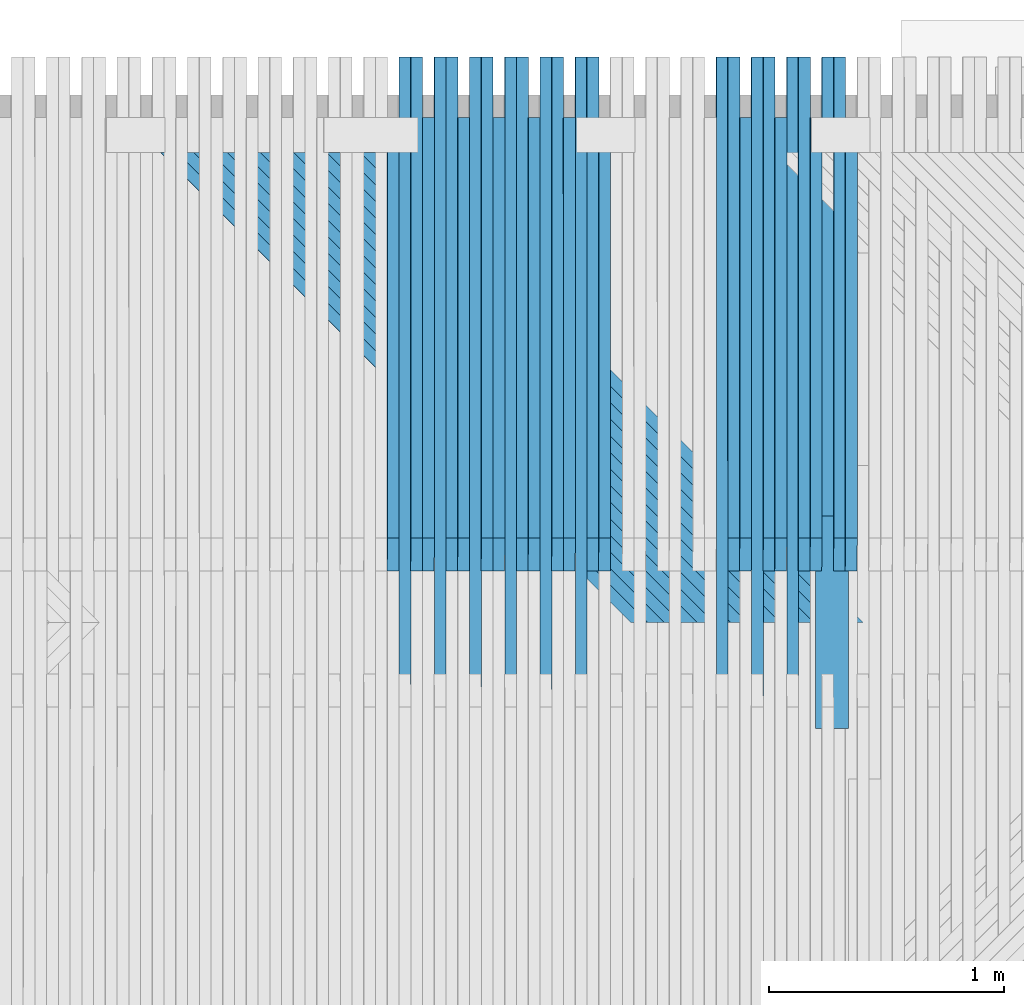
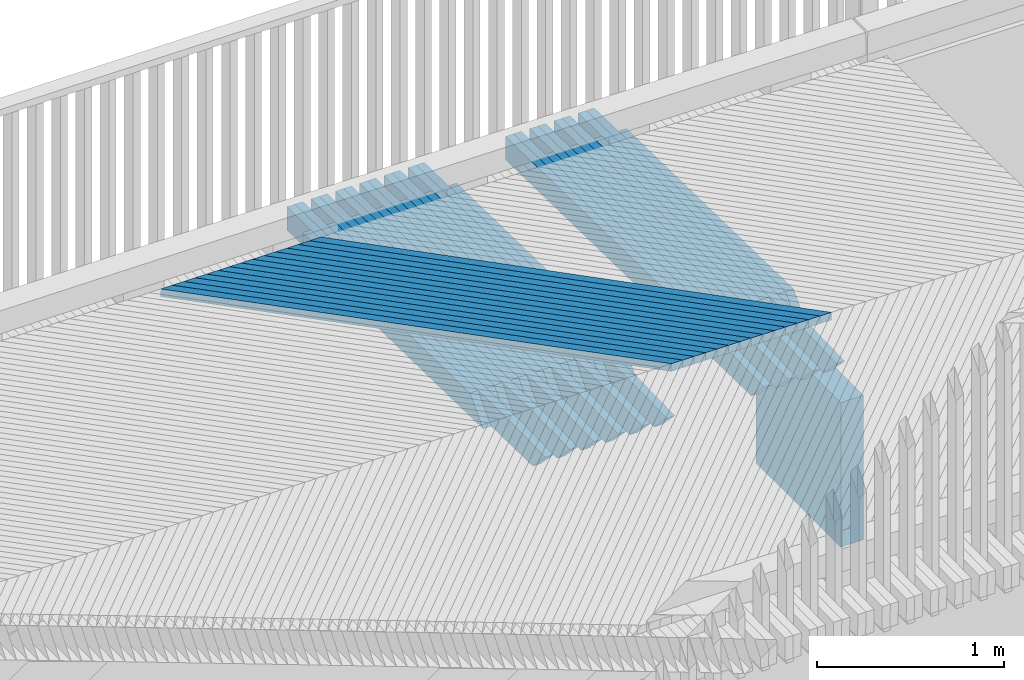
# One storey, part 40 of 47: 46 beams.
"""IFC2X3 building model written with IfcOpenShell, lengths in millimetres."""

from ifc_helpers import new_model, si_unit, frame, origin_with_axes, place, context, subcontext, project, spatial, faceted_brep, material, type_object, element, save


model = new_model("IFC2X3")

# Units and contexts
model_context = context("Model", 3, precision=1e-05, world=origin_with_axes())
body_context = subcontext(model_context, "Body", "Model", "MODEL_VIEW")
ifc_project = project(units=[si_unit("LENGTHUNIT", "METRE", prefix="MILLI"), si_unit("AREAUNIT", "SQUARE_METRE"), si_unit("VOLUMEUNIT", "CUBIC_METRE"), si_unit("MASSUNIT", "GRAM", prefix="KILO"), si_unit("TIMEUNIT", "SECOND"), si_unit("PLANEANGLEUNIT", "RADIAN"), si_unit("SOLIDANGLEUNIT", "STERADIAN"), si_unit("THERMODYNAMICTEMPERATUREUNIT", "DEGREE_CELSIUS"), si_unit("LUMINOUSINTENSITYUNIT", "LUMEN")], contexts=[model_context])

# Site, building, storey
site_placement = place(None, origin_with_axes())
site = spatial("IfcSite", under=ifc_project, at=site_placement, Name="Undefined", CompositionType="ELEMENT")
building_placement = place(site_placement, origin_with_axes())
building = spatial("IfcBuilding", under=site, at=building_placement, Name="Undefined", CompositionType="ELEMENT")
storey_placement = place(building_placement, origin_with_axes())
storey = spatial("IfcBuildingStorey", under=building, at=storey_placement, Name="Undefined", CompositionType="ELEMENT", Elevation=0.0)

# Beams
ifc_material = material(Name="TIMBER/Timber_Undefined")
beam_type_1 = type_object("IfcBeamType", Name="150*50", PredefinedType="NOTDEFINED")
beam_1_placement = place(storey_placement, frame((15051.016947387, 64513.4953923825, 3051.85105374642), z_axis=(0.011713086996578, 0.0199960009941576, 0.999731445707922), x_axis=(0.000234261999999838, -0.999800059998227, 0.0199946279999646)))
element("IfcBeam", 1, at=beam_1_placement, inside=storey, type_object=beam_type_1, material=ifc_material, Name="BEAM", ObjectType="150*50", context=body_context, shape_type="Brep", body=[
    faceted_brep([(6.18456397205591e-09, -24.9999999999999, -75.0000000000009), (-6.1918399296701e-09, -24.9999999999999, 74.9999999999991), (-6.19911588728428e-09, 25.0, 75.0), (6.18456397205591e-09, 24.9999999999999, -75.0), (1789.96936586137, 25.0, 75.0000000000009), (1928.42646506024, 25.0, -75.0), (1928.4264649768, -24.9999999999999, -75.0), (1789.96936577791, -24.9999999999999, 75.0)], [[[0, 1, 2, 3]], [[3, 2, 4, 5]], [[0, 3, 5, 6]], [[1, 0, 6, 7]], [[2, 1, 7, 4]], [[7, 6, 5, 4]]]),
])
beam_2_placement = place(storey_placement, frame((15001.0553787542, 64771.4438078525, 3047.27491822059), z_axis=(0.0116307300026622, 0.0199960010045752, 0.99973240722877), x_axis=(0.0002326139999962, -0.999800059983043, 0.019994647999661)))
element("IfcBeam", 2, at=beam_2_placement, inside=storey, type_object=beam_type_1, material=ifc_material, Name="BEAM", ObjectType="150*50", context=body_context, shape_type="Brep", body=[
    faceted_brep([(6.18456397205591e-09, -24.9999999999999, -75.0000000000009), (-6.1918399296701e-09, -24.9999999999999, 74.9999999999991), (-6.19911588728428e-09, 25.0, 75.0), (6.18456397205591e-09, 24.9999999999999, -75.0), (2047.96935975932, 25.0, 75.0), (2186.42645864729, 25.0, -75.0), (2186.42645915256, -25.0000000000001, -75.0), (2047.96936034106, -25.0000000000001, 75.0)], [[[0, 1, 2, 3]], [[3, 2, 4, 5]], [[0, 3, 5, 6]], [[1, 0, 6, 7]], [[2, 1, 7, 4]], [[7, 6, 5, 4]]]),
])
beam_3_placement = place(storey_placement, frame((14951.0193283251, 64771.443807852, 3047.85614650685), z_axis=(0.0114639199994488, 0.0199960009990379, 0.999734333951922), x_axis=(0.000229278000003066, -0.99980006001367, 0.0199946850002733)))
element("IfcBeam", 3, at=beam_3_placement, inside=storey, type_object=beam_type_1, material=ifc_material, Name="BEAM", ObjectType="150*50", context=body_context, shape_type="Brep", body=[
    faceted_brep([(6.18456397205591e-09, -24.9999999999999, -75.0000000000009), (6.18456397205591e-09, 24.9999999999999, -75.0), (2633.00494983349, 25.0000000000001, -75.0000000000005), (2633.00495050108, -24.9999999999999, -75.0000000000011), (-6.1918399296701e-09, -24.9999999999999, 74.9999999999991), (-6.19911588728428e-09, 25.0, 75.0), (2408.42506497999, 24.9999999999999, 75.0), (2768.5924870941, 25.0, 60.5875375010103), (2768.59248707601, -25.0, 60.5875366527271), (2408.4250638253, -25.0, 74.9999999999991)], [[[0, 1, 2, 3]], [[0, 4, 5, 1]], [[2, 1, 5, 6, 7]], [[3, 2, 7, 8]], [[4, 0, 3, 8, 9]], [[5, 4, 9, 6]], [[8, 7, 6, 9]]]),
])
beam_4_placement = place(storey_placement, frame((14900.9969722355, 64513.4953923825, 3053.58970501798), z_axis=(0.0114639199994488, 0.0199960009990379, 0.999734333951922), x_axis=(0.000229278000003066, -0.99980006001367, 0.0199946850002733)))
element("IfcBeam", 4, at=beam_4_placement, inside=storey, type_object=beam_type_1, material=ifc_material, Name="BEAM", ObjectType="150*50", context=body_context, shape_type="Brep", body=[
    faceted_brep([(6.18456397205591e-09, -24.9999999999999, -75.0000000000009), (-6.1918399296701e-09, -24.9999999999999, 74.9999999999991), (-6.19911588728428e-09, 25.0, 75.0), (6.18456397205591e-09, 24.9999999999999, -75.0), (1789.96936586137, 25.0, 75.0000000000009), (1928.42646506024, 25.0, -75.0), (1928.4264649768, -24.9999999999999, -75.0), (1789.96936577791, -24.9999999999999, 75.0)], [[[0, 1, 2, 3]], [[3, 2, 4, 5]], [[0, 3, 5, 6]], [[1, 0, 6, 7]], [[2, 1, 7, 4]], [[7, 6, 5, 4]]]),
])
beam_5_placement = place(storey_placement, frame((14851.0365456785, 64771.4438078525, 3049.00111756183), z_axis=(0.0113815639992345, 0.0199960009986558, 0.999735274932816), x_axis=(0.000227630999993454, -0.999800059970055, 0.0199947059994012)))
element("IfcBeam", 5, at=beam_5_placement, inside=storey, type_object=beam_type_1, material=ifc_material, Name="BEAM", ObjectType="150*50", context=body_context, shape_type="Brep", body=[
    faceted_brep([(6.18456397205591e-09, -24.9999999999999, -75.0000000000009), (-6.1918399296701e-09, -24.9999999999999, 74.9999999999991), (-6.19911588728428e-09, 25.0, 75.0), (6.18456397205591e-09, 24.9999999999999, -75.0), (2047.96935975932, 25.0, 75.0), (2186.42645864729, 25.0, -75.0), (2186.42645915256, -25.0000000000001, -75.0), (2047.96936034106, -25.0000000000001, 75.0)], [[[0, 1, 2, 3]], [[3, 2, 4, 5]], [[0, 3, 5, 6]], [[1, 0, 6, 7]], [[2, 1, 7, 4]], [[7, 6, 5, 4]]]),
])
beam_6_placement = place(storey_placement, frame((14801.0003519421, 64771.443807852, 3049.56987519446), z_axis=(0.0112147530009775, 0.0199960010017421, 0.999737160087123), x_axis=(0.000224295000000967, -0.999800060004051, 0.0199947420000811)))
element("IfcBeam", 6, at=beam_6_placement, inside=storey, type_object=beam_type_1, material=ifc_material, Name="BEAM", ObjectType="150*50", context=body_context, shape_type="Brep", body=[
    faceted_brep([(6.18456397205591e-09, -24.9999999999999, -75.0000000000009), (6.18456397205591e-09, 24.9999999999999, -75.0), (2633.00494983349, 25.0000000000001, -75.0000000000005), (2633.00495050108, -24.9999999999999, -75.0000000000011), (-6.1918399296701e-09, -24.9999999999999, 74.9999999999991), (-6.19911588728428e-09, 25.0, 75.0), (2408.42506497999, 24.9999999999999, 75.0), (2768.5924870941, 25.0, 60.5875375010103), (2768.59248707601, -25.0, 60.5875366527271), (2408.4250638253, -25.0, 74.9999999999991)], [[[0, 1, 2, 3]], [[0, 4, 5, 1]], [[2, 1, 5, 6, 7]], [[3, 2, 7, 8]], [[4, 0, 3, 8, 9]], [[5, 4, 9, 6]], [[8, 7, 6, 9]]]),
])
beam_7_placement = place(storey_placement, frame((14750.9765684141, 64513.4953923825, 3055.29096630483), z_axis=(0.0112147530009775, 0.0199960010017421, 0.999737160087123), x_axis=(0.000224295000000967, -0.999800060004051, 0.0199947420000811)))
element("IfcBeam", 7, at=beam_7_placement, inside=storey, type_object=beam_type_1, material=ifc_material, Name="BEAM", ObjectType="150*50", context=body_context, shape_type="Brep", body=[
    faceted_brep([(6.18456397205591e-09, -24.9999999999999, -75.0000000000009), (-6.1918399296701e-09, -24.9999999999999, 74.9999999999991), (-6.19911588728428e-09, 25.0, 75.0), (6.18456397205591e-09, 24.9999999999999, -75.0), (1789.96936586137, 25.0, 75.0000000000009), (1928.42646506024, 25.0, -75.0), (1928.4264649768, -24.9999999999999, -75.0), (1789.96936577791, -24.9999999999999, 75.0)], [[[0, 1, 2, 3]], [[3, 2, 4, 5]], [[0, 3, 5, 6]], [[1, 0, 6, 7]], [[2, 1, 7, 4]], [[7, 6, 5, 4]]]),
])
beam_8_placement = place(storey_placement, frame((14701.0172870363, 64771.4438078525, 3050.68992720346), z_axis=(0.011132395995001, 0.0199960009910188, 0.99973808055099), x_axis=(0.000222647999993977, -0.99980005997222, 0.0199947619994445)))
element("IfcBeam", 8, at=beam_8_placement, inside=storey, type_object=beam_type_1, material=ifc_material, Name="BEAM", ObjectType="150*50", context=body_context, shape_type="Brep", body=[
    faceted_brep([(6.18456397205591e-09, -24.9999999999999, -75.0000000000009), (-6.1918399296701e-09, -24.9999999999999, 74.9999999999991), (-6.19911588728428e-09, 25.0, 75.0), (6.18456397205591e-09, 24.9999999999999, -75.0), (2047.96935975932, 25.0, 75.0), (2186.42645864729, 25.0, -75.0), (2186.42645915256, -25.0000000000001, -75.0), (2047.96936034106, -25.0000000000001, 75.0)], [[[0, 1, 2, 3]], [[3, 2, 4, 5]], [[0, 3, 5, 6]], [[1, 0, 6, 7]], [[2, 1, 7, 4]], [[7, 6, 5, 4]]]),
])
beam_9_placement = place(storey_placement, frame((14650.9809531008, 64771.443807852, 3051.24621414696), z_axis=(0.0109655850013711, 0.0199960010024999, 0.999739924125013), x_axis=(0.000219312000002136, -0.999800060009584, 0.0199947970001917)))
element("IfcBeam", 9, at=beam_9_placement, inside=storey, type_object=beam_type_1, material=ifc_material, Name="BEAM", ObjectType="150*50", context=body_context, shape_type="Brep", body=[
    faceted_brep([(6.18456397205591e-09, -24.9999999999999, -75.0000000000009), (6.18456397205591e-09, 24.9999999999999, -75.0), (2633.00494983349, 25.0000000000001, -75.0000000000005), (2633.00495050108, -24.9999999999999, -75.0000000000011), (-6.1918399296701e-09, -24.9999999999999, 74.9999999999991), (-6.19911588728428e-09, 25.0, 75.0), (2408.42506497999, 24.9999999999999, 75.0), (2768.5924870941, 25.0, 60.5875375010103), (2768.59248707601, -25.0, 60.5875366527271), (2408.4250638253, -25.0, 74.9999999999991)], [[[0, 1, 2, 3]], [[0, 4, 5, 1]], [[2, 1, 5, 6, 7]], [[3, 2, 7, 8]], [[4, 0, 3, 8, 9]], [[5, 4, 9, 6]], [[8, 7, 6, 9]]]),
])
beam_10_placement = place(storey_placement, frame((14600.9557452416, 64513.4953923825, 3056.95483750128), z_axis=(0.0109655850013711, 0.0199960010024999, 0.999739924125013), x_axis=(0.000219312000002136, -0.999800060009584, 0.0199947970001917)))
element("IfcBeam", 10, at=beam_10_placement, inside=storey, type_object=beam_type_1, material=ifc_material, Name="BEAM", ObjectType="150*50", context=body_context, shape_type="Brep", body=[
    faceted_brep([(6.18456397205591e-09, -24.9999999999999, -75.0000000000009), (-6.1918399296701e-09, -24.9999999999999, 74.9999999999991), (-6.19911588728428e-09, 25.0, 75.0), (6.18456397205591e-09, 24.9999999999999, -75.0), (1789.96936586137, 25.0, 75.0000000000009), (1928.42646506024, 25.0, -75.0), (1928.4264649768, -24.9999999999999, -75.0), (1789.96936577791, -24.9999999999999, 75.0)], [[[0, 1, 2, 3]], [[3, 2, 4, 5]], [[0, 3, 5, 6]], [[1, 0, 6, 7]], [[2, 1, 7, 4]], [[7, 6, 5, 4]]]),
])
beam_11_placement = place(storey_placement, frame((14550.9976121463, 64771.4438078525, 3052.34134704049), z_axis=(0.0108832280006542, 0.0199960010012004, 0.999740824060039), x_axis=(0.000217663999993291, -0.999800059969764, 0.0199948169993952)))
element("IfcBeam", 11, at=beam_11_placement, inside=storey, type_object=beam_type_1, material=ifc_material, Name="BEAM", ObjectType="150*50", context=body_context, shape_type="Brep", body=[
    faceted_brep([(6.18456397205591e-09, -24.9999999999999, -75.0000000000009), (-6.1918399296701e-09, -24.9999999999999, 74.9999999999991), (-6.19911588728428e-09, 25.0, 75.0), (6.18456397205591e-09, 24.9999999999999, -75.0), (2047.96935975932, 25.0, 75.0), (2186.42645864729, 25.0, -75.0), (2186.42645915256, -25.0000000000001, -75.0), (2047.96936034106, -25.0000000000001, 75.0)], [[[0, 1, 2, 3]], [[3, 2, 4, 5]], [[0, 3, 5, 6]], [[1, 0, 6, 7]], [[2, 1, 7, 4]], [[7, 6, 5, 4]]]),
])
beam_12_placement = place(storey_placement, frame((14500.9611411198, 64771.443807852, 3052.88516326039), z_axis=(0.0107164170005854, 0.0199960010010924, 0.999742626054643), x_axis=(0.000214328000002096, -0.999800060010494, 0.0199948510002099)))
element("IfcBeam", 12, at=beam_12_placement, inside=storey, type_object=beam_type_1, material=ifc_material, Name="BEAM", ObjectType="150*50", context=body_context, shape_type="Brep", body=[
    faceted_brep([(6.18456397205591e-09, -24.9999999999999, -75.0000000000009), (6.18456397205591e-09, 24.9999999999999, -75.0), (2633.00494983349, 25.0000000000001, -75.0000000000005), (2633.00495050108, -24.9999999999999, -75.0000000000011), (-6.1918399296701e-09, -24.9999999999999, 74.9999999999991), (-6.19911588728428e-09, 25.0, 75.0), (2408.42506497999, 24.9999999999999, 75.0), (2768.5924870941, 25.0, 60.5875375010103), (2768.59248707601, -25.0, 60.5875366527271), (2408.4250638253, -25.0, 74.9999999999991)], [[[0, 1, 2, 3]], [[0, 4, 5, 1]], [[2, 1, 5, 6, 7]], [[3, 2, 7, 8]], [[4, 0, 3, 8, 9]], [[5, 4, 9, 6]], [[8, 7, 6, 9]]]),
])
beam_13_placement = place(storey_placement, frame((14000.8684454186, 64513.4953923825, 3063.23641935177), z_axis=(0.00996890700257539, 0.0199960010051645, 0.999750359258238), x_axis=(0.000199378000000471, -0.999800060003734, 0.0199950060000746)))
element("IfcBeam", 13, at=beam_13_placement, inside=storey, type_object=beam_type_1, material=ifc_material, Name="BEAM", ObjectType="150*50", context=body_context, shape_type="Brep", body=[
    faceted_brep([(6.18456397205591e-09, -24.9999999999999, -75.0000000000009), (-6.1918399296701e-09, -24.9999999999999, 74.9999999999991), (-6.19911588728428e-09, 25.0, 75.0), (6.18456397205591e-09, 24.9999999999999, -75.0), (1789.96936586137, 25.0, 75.0000000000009), (1928.42646506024, 25.0, -75.0), (1928.4264649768, -24.9999999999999, -75.0), (1789.96936577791, -24.9999999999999, 75.0)], [[[0, 1, 2, 3]], [[3, 2, 4, 5]], [[0, 3, 5, 6]], [[1, 0, 6, 7]], [[2, 1, 7, 4]], [[7, 6, 5, 4]]]),
])
beam_14_placement = place(storey_placement, frame((13950.9149364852, 64771.4438078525, 3058.5731263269), z_axis=(0.0098865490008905, 0.0199960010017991, 0.999751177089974), x_axis=(0.000197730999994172, -0.99980005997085, 0.019995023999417)))
element("IfcBeam", 14, at=beam_14_placement, inside=storey, type_object=beam_type_1, material=ifc_material, Name="BEAM", ObjectType="150*50", context=body_context, shape_type="Brep", body=[
    faceted_brep([(6.18456397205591e-09, -24.9999999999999, -75.0000000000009), (-6.1918399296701e-09, -24.9999999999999, 74.9999999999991), (-6.19911588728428e-09, 25.0, 75.0), (6.18456397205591e-09, 24.9999999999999, -75.0), (2047.96935975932, 25.0, 75.0), (2186.42645864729, 25.0, -75.0), (2186.42645915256, -25.0000000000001, -75.0), (2047.96936034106, -25.0000000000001, 75.0)], [[[0, 1, 2, 3]], [[3, 2, 4, 5]], [[0, 3, 5, 6]], [[1, 0, 6, 7]], [[2, 1, 7, 4]], [[7, 6, 5, 4]]]),
])
beam_15_placement = place(storey_placement, frame((13900.8779481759, 64771.443807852, 3059.06705932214), z_axis=(0.00971973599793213, 0.0199960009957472, 0.999752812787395), x_axis=(0.000194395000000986, -0.999800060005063, 0.0199950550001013)))
element("IfcBeam", 15, at=beam_15_placement, inside=storey, type_object=beam_type_1, material=ifc_material, Name="BEAM", ObjectType="150*50", context=body_context, shape_type="Brep", body=[
    faceted_brep([(6.18456397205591e-09, -24.9999999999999, -75.0000000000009), (6.18456397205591e-09, 24.9999999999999, -75.0), (2633.00494983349, 25.0000000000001, -75.0000000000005), (2633.00495050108, -24.9999999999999, -75.0000000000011), (-6.1918399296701e-09, -24.9999999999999, 74.9999999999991), (-6.19911588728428e-09, 25.0, 75.0), (2408.42506497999, 24.9999999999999, 75.0), (2768.5924870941, 25.0, 60.5875375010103), (2768.59248707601, -25.0, 60.5875366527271), (2408.4250638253, -25.0, 74.9999999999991)], [[[0, 1, 2, 3]], [[0, 4, 5, 1]], [[2, 1, 5, 6, 7]], [[3, 2, 7, 8]], [[4, 0, 3, 8, 9]], [[5, 4, 9, 6]], [[8, 7, 6, 9]]]),
])
beam_16_placement = place(storey_placement, frame((13850.8456652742, 64513.4953923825, 3064.71333859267), z_axis=(0.00971973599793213, 0.0199960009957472, 0.999752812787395), x_axis=(0.000194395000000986, -0.999800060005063, 0.0199950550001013)))
element("IfcBeam", 16, at=beam_16_placement, inside=storey, type_object=beam_type_1, material=ifc_material, Name="BEAM", ObjectType="150*50", context=body_context, shape_type="Brep", body=[
    faceted_brep([(6.18456397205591e-09, -24.9999999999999, -75.0000000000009), (-6.1918399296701e-09, -24.9999999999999, 74.9999999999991), (-6.19911588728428e-09, 25.0, 75.0), (6.18456397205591e-09, 24.9999999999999, -75.0), (1789.96936586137, 25.0, 75.0000000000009), (1928.42646506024, 25.0, -75.0), (1928.4264649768, -24.9999999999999, -75.0), (1789.96936577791, -24.9999999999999, 75.0)], [[[0, 1, 2, 3]], [[3, 2, 4, 5]], [[0, 3, 5, 6]], [[1, 0, 6, 7]], [[2, 1, 7, 4]], [[7, 6, 5, 4]]]),
])
beam_17_placement = place(storey_placement, frame((13800.8933201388, 64771.4438078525, 3060.03759564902), z_axis=(0.00963737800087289, 0.0199960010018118, 0.999753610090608), x_axis=(0.000192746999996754, -0.999800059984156, 0.0199950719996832)))
element("IfcBeam", 17, at=beam_17_placement, inside=storey, type_object=beam_type_1, material=ifc_material, Name="BEAM", ObjectType="150*50", context=body_context, shape_type="Brep", body=[
    faceted_brep([(6.18456397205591e-09, -24.9999999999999, -75.0000000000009), (-6.1918399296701e-09, -24.9999999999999, 74.9999999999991), (-6.19911588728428e-09, 25.0, 75.0), (6.18456397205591e-09, 24.9999999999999, -75.0), (2047.96935975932, 25.0, 75.0), (2186.42645864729, 25.0, -75.0), (2186.42645915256, -25.0000000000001, -75.0), (2047.96936034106, -25.0000000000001, 75.0)], [[[0, 1, 2, 3]], [[3, 2, 4, 5]], [[0, 3, 5, 6]], [[1, 0, 6, 7]], [[2, 1, 7, 4]], [[7, 6, 5, 4]]]),
])
beam_18_placement = place(storey_placement, frame((13750.8562102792, 64771.443807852, 3060.51905775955), z_axis=(0.00947056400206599, 0.0199960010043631, 0.999755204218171), x_axis=(0.000189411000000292, -0.999800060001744, 0.0199951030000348)))
element("IfcBeam", 18, at=beam_18_placement, inside=storey, type_object=beam_type_1, material=ifc_material, Name="BEAM", ObjectType="150*50", context=body_context, shape_type="Brep", body=[
    faceted_brep([(6.18456397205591e-09, -24.9999999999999, -75.0000000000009), (6.18456397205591e-09, 24.9999999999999, -75.0), (2633.00494983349, 25.0000000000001, -75.0000000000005), (2633.00495050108, -24.9999999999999, -75.0000000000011), (-6.1918399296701e-09, -24.9999999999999, 74.9999999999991), (-6.19911588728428e-09, 25.0, 75.0), (2408.42501428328, 25.0000000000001, 74.9999999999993), (2768.5924870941, 25.0, 60.5875375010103), (2768.59248707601, -25.0, 60.5875366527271), (2408.4250638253, -25.0, 74.9999999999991)], [[[0, 1, 2, 3]], [[0, 4, 5, 1]], [[2, 1, 5, 6, 7]], [[3, 2, 7, 8]], [[4, 0, 3, 8, 9]], [[5, 4, 9, 6]], [[8, 7, 6, 9]]]),
])
beam_19_placement = place(storey_placement, frame((13700.8225216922, 64513.4953923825, 3066.15286715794), z_axis=(0.00947056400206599, 0.0199960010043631, 0.999755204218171), x_axis=(0.000189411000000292, -0.999800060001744, 0.0199951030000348)))
element("IfcBeam", 19, at=beam_19_placement, inside=storey, type_object=beam_type_1, material=ifc_material, Name="BEAM", ObjectType="150*50", context=body_context, shape_type="Brep", body=[
    faceted_brep([(6.18456397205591e-09, -24.9999999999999, -75.0000000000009), (-6.1918399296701e-09, -24.9999999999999, 74.9999999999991), (-6.19911588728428e-09, 25.0, 75.0), (6.18456397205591e-09, 24.9999999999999, -75.0), (1789.96936586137, 25.0, 75.0000000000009), (1928.42646506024, 25.0, -75.0), (1928.4264649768, -24.9999999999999, -75.0), (1789.96936577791, -24.9999999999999, 75.0)], [[[0, 1, 2, 3]], [[3, 2, 4, 5]], [[0, 3, 5, 6]], [[1, 0, 6, 7]], [[2, 1, 7, 4]], [[7, 6, 5, 4]]]),
])
beam_20_placement = place(storey_placement, frame((13650.8713434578, 64771.4438078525, 3061.46467458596), z_axis=(0.00938820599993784, 0.0199960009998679, 0.99975598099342), x_axis=(0.000187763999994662, -0.999800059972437, 0.0199951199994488)))
element("IfcBeam", 20, at=beam_20_placement, inside=storey, type_object=beam_type_1, material=ifc_material, Name="BEAM", ObjectType="150*50", context=body_context, shape_type="Brep", body=[
    faceted_brep([(6.18456397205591e-09, -24.9999999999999, -75.0000000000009), (-6.1918399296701e-09, -24.9999999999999, 74.9999999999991), (-6.19911588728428e-09, 25.0, 75.0), (6.18456397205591e-09, 24.9999999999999, -75.0), (2047.96935975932, 25.0, 75.0), (2186.42645864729, 25.0, -75.0), (2186.42645915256, -25.0000000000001, -75.0), (2047.96936034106, -25.0000000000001, 75.0)], [[[0, 1, 2, 3]], [[3, 2, 4, 5]], [[0, 3, 5, 6]], [[1, 0, 6, 7]], [[2, 1, 7, 4]], [[7, 6, 5, 4]]]),
])
beam_21_placement = place(storey_placement, frame((13600.834115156, 64771.443807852, 3061.93366578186), z_axis=(0.00922139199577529, 0.0199960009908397, 0.999757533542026), x_axis=(0.000184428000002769, -0.999800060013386, 0.0199951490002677)))
element("IfcBeam", 21, at=beam_21_placement, inside=storey, type_object=beam_type_1, material=ifc_material, Name="BEAM", ObjectType="150*50", context=body_context, shape_type="Brep", body=[
    faceted_brep([(6.18456397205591e-09, -24.9999999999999, -75.0000000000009), (6.18456397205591e-09, 24.9999999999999, -75.0), (2633.00494983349, 25.0000000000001, -75.0000000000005), (2633.00495050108, -24.9999999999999, -75.0000000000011), (-6.1918399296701e-09, -24.9999999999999, 74.9999999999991), (-6.19911588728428e-09, 25.0, 75.0), (2408.42506497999, 24.9999999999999, 75.0), (2768.5924870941, 25.0, 60.5875375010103), (2768.59248707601, -25.0, 60.5875366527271), (2408.4250638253, -25.0, 74.9999999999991)], [[[0, 1, 2, 3]], [[0, 4, 5, 1]], [[2, 1, 5, 6, 7]], [[3, 2, 7, 8]], [[4, 0, 3, 8, 9]], [[5, 4, 9, 6]], [[8, 7, 6, 9]]]),
])
beam_22_placement = place(storey_placement, frame((13550.7990239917, 64513.4953923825, 3067.5550049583), z_axis=(0.00922139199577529, 0.0199960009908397, 0.999757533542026), x_axis=(0.000184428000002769, -0.999800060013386, 0.0199951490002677)))
element("IfcBeam", 22, at=beam_22_placement, inside=storey, type_object=beam_type_1, material=ifc_material, Name="BEAM", ObjectType="150*50", context=body_context, shape_type="Brep", body=[
    faceted_brep([(6.18456397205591e-09, -24.9999999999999, -75.0000000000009), (-6.1918399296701e-09, -24.9999999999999, 74.9999999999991), (-6.19911588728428e-09, 25.0, 75.0), (6.18456397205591e-09, 24.9999999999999, -75.0), (1789.96936586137, 25.0, 75.0000000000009), (1928.42646506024, 25.0, -75.0), (1928.4264649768, -24.9999999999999, -75.0), (1789.96936577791, -24.9999999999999, 75.0)], [[[0, 1, 2, 3]], [[3, 2, 4, 5]], [[0, 3, 5, 6]], [[1, 0, 6, 7]], [[2, 1, 7, 4]], [[7, 6, 5, 4]]]),
])
beam_23_placement = place(storey_placement, frame((13500.8490157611, 64771.4438078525, 3062.85436304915), z_axis=(0.00913903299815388, 0.0199960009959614, 0.999758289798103), x_axis=(0.000182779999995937, -0.999800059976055, 0.0199951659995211)))
element("IfcBeam", 23, at=beam_23_placement, inside=storey, type_object=beam_type_1, material=ifc_material, Name="BEAM", ObjectType="150*50", context=body_context, shape_type="Brep", body=[
    faceted_brep([(6.18456397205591e-09, -24.9999999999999, -75.0000000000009), (-6.1918399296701e-09, -24.9999999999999, 74.9999999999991), (-6.19911588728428e-09, 25.0, 75.0), (6.18456397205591e-09, 24.9999999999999, -75.0), (2047.96935975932, 25.0, 75.0), (2186.42645864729, 25.0, -75.0), (2186.42645915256, -25.0000000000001, -75.0), (2047.96936034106, -25.0000000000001, 75.0)], [[[0, 1, 2, 3]], [[3, 2, 4, 5]], [[0, 3, 5, 6]], [[1, 0, 6, 7]], [[2, 1, 7, 4]], [[7, 6, 5, 4]]]),
])
beam_24_placement = place(storey_placement, frame((13450.8116721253, 64771.443807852, 3063.31088330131), z_axis=(0.00897221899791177, 0.0199960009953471, 0.999759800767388), x_axis=(0.000179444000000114, -0.99980006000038, 0.0199951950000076)))
element("IfcBeam", 24, at=beam_24_placement, inside=storey, type_object=beam_type_1, material=ifc_material, Name="BEAM", ObjectType="150*50", context=body_context, shape_type="Brep", body=[
    faceted_brep([(6.18456397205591e-09, -24.9999999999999, -75.0000000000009), (6.18456397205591e-09, 24.9999999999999, -75.0), (2633.00494983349, 25.0000000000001, -75.0000000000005), (2633.00495050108, -24.9999999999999, -75.0000000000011), (-6.1918399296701e-09, -24.9999999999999, 74.9999999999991), (-6.19911588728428e-09, 25.0, 75.0), (2408.42501428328, 25.0000000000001, 74.9999999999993), (2768.5924870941, 25.0, 60.5875375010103), (2768.59248707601, -25.0, 60.5875366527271), (2408.4250638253, -25.0, 74.9999999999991)], [[[0, 1, 2, 3]], [[0, 4, 5, 1]], [[2, 1, 5, 6, 7]], [[3, 2, 7, 8]], [[4, 0, 3, 8, 9]], [[5, 4, 9, 6]], [[8, 7, 6, 9]]]),
])
beam_25_placement = place(storey_placement, frame((13400.7751814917, 64513.4953923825, 3068.91975190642), z_axis=(0.00897221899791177, 0.0199960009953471, 0.999759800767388), x_axis=(0.000179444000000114, -0.99980006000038, 0.0199951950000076)))
element("IfcBeam", 25, at=beam_25_placement, inside=storey, type_object=beam_type_1, material=ifc_material, Name="BEAM", ObjectType="150*50", context=body_context, shape_type="Brep", body=[
    faceted_brep([(6.18456397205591e-09, -24.9999999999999, -75.0000000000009), (-6.1918399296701e-09, -24.9999999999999, 74.9999999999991), (-6.19911588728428e-09, 25.0, 75.0), (6.18456397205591e-09, 24.9999999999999, -75.0), (1789.96936586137, 25.0, 75.0000000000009), (1928.42646506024, 25.0, -75.0), (1928.4264649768, -24.9999999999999, -75.0), (1789.96936577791, -24.9999999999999, 75.0)], [[[0, 1, 2, 3]], [[3, 2, 4, 5]], [[0, 3, 5, 6]], [[1, 0, 6, 7]], [[2, 1, 7, 4]], [[7, 6, 5, 4]]]),
])
beam_26_placement = place(storey_placement, frame((13350.8263463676, 64771.4438078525, 3064.20666095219), z_axis=(0.0088898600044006, 0.0199960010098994, 0.999760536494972), x_axis=(0.000177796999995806, -0.999800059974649, 0.019995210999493)))
element("IfcBeam", 26, at=beam_26_placement, inside=storey, type_object=beam_type_1, material=ifc_material, Name="BEAM", ObjectType="150*50", context=body_context, shape_type="Brep", body=[
    faceted_brep([(6.18456397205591e-09, -24.9999999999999, -75.0000000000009), (-6.1918399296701e-09, -24.9999999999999, 74.9999999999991), (-6.19911588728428e-09, 25.0, 75.0), (6.18456397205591e-09, 24.9999999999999, -75.0), (2047.96935975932, 25.0, 75.0), (2186.42645864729, 25.0, -75.0), (2186.42645915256, -25.0000000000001, -75.0), (2047.96936034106, -25.0000000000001, 75.0)], [[[0, 1, 2, 3]], [[3, 2, 4, 5]], [[0, 3, 5, 6]], [[1, 0, 6, 7]], [[2, 1, 7, 4]], [[7, 6, 5, 4]]]),
])
beam_27_placement = place(storey_placement, frame((13300.7888905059, 64771.443807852, 3064.65071023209), z_axis=(0.00872304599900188, 0.0199960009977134, 0.9997620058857), x_axis=(0.00017446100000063, -0.999800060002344, 0.0199952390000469)))
element("IfcBeam", 27, at=beam_27_placement, inside=storey, type_object=beam_type_1, material=ifc_material, Name="BEAM", ObjectType="150*50", context=body_context, shape_type="Brep", body=[
    faceted_brep([(6.18456397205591e-09, -24.9999999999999, -75.0000000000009), (6.18456397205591e-09, 24.9999999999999, -75.0), (2633.00494983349, 25.0000000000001, -75.0000000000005), (2633.00495050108, -24.9999999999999, -75.0000000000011), (-6.1918399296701e-09, -24.9999999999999, 74.9999999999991), (-6.19911588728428e-09, 25.0, 75.0), (2408.42501428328, 25.0000000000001, 74.9999999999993), (2768.5924870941, 25.0, 60.5875375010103), (2768.59248707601, -25.0, 60.5875366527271), (2408.4250638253, -25.0, 74.9999999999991)], [[[0, 1, 2, 3]], [[0, 4, 5, 1]], [[2, 1, 5, 6, 7]], [[3, 2, 7, 8]], [[4, 0, 3, 8, 9]], [[5, 4, 9, 6]], [[8, 7, 6, 9]]]),
])
beam_28_placement = place(storey_placement, frame((13250.7510035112, 64513.4953923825, 3070.24710791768), z_axis=(0.00872304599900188, 0.0199960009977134, 0.9997620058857), x_axis=(0.00017446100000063, -0.999800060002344, 0.0199952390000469)))
element("IfcBeam", 28, at=beam_28_placement, inside=storey, type_object=beam_type_1, material=ifc_material, Name="BEAM", ObjectType="150*50", context=body_context, shape_type="Brep", body=[
    faceted_brep([(6.18456397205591e-09, -24.9999999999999, -75.0000000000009), (-6.1918399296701e-09, -24.9999999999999, 74.9999999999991), (-6.19911588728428e-09, 25.0, 75.0), (6.18456397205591e-09, 24.9999999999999, -75.0), (1789.96936586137, 25.0, 75.0000000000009), (1928.42646506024, 25.0, -75.0), (1928.4264649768, -24.9999999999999, -75.0), (1789.96936577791, -24.9999999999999, 75.0)], [[[0, 1, 2, 3]], [[3, 2, 4, 5]], [[0, 3, 5, 6]], [[1, 0, 6, 7]], [[2, 1, 7, 4]], [[7, 6, 5, 4]]]),
])
beam_29_placement = place(storey_placement, frame((13200.8033445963, 64771.4438078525, 3065.52156821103), z_axis=(0.0086406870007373, 0.0199960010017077, 0.999762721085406), x_axis=(0.000172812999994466, -0.999800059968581, 0.0199952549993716)))
element("IfcBeam", 29, at=beam_29_placement, inside=storey, type_object=beam_type_1, material=ifc_material, Name="BEAM", ObjectType="150*50", context=body_context, shape_type="Brep", body=[
    faceted_brep([(6.18456397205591e-09, -24.9999999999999, -75.0000000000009), (-6.1918399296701e-09, -24.9999999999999, 74.9999999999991), (-6.19911588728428e-09, 25.0, 75.0), (6.18456397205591e-09, 24.9999999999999, -75.0), (2047.96935975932, 25.0, 75.0), (2186.42645864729, 25.0, -75.0), (2186.42645915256, -25.0000000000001, -75.0), (2047.96936034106, -25.0000000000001, 75.0)], [[[0, 1, 2, 3]], [[3, 2, 4, 5]], [[0, 3, 5, 6]], [[1, 0, 6, 7]], [[2, 1, 7, 4]], [[7, 6, 5, 4]]]),
])
beam_30_placement = place(storey_placement, frame((13150.765779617, 64771.443807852, 3065.95314649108), z_axis=(0.00847387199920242, 0.0199960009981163, 0.999764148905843), x_axis=(0.000169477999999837, -0.999800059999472, 0.0199952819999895)))
element("IfcBeam", 30, at=beam_30_placement, inside=storey, type_object=beam_type_1, material=ifc_material, Name="BEAM", ObjectType="150*50", context=body_context, shape_type="Brep", body=[
    faceted_brep([(6.18456397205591e-09, -24.9999999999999, -75.0000000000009), (6.18456397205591e-09, 24.9999999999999, -75.0), (2633.00494983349, 25.0000000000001, -75.0000000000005), (2633.00495050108, -24.9999999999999, -75.0000000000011), (-6.1918399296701e-09, -24.9999999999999, 74.9999999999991), (-6.19911588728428e-09, 25.0, 75.0), (2408.42501428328, 25.0000000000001, 74.9999999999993), (2768.5924870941, 25.0, 60.5875375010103), (2768.59248707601, -25.0, 60.5875366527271), (2408.4250638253, -25.0, 74.9999999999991)], [[[0, 1, 2, 3]], [[0, 4, 5, 1]], [[2, 1, 5, 6, 7]], [[3, 2, 7, 8]], [[4, 0, 3, 8, 9]], [[5, 4, 9, 6]], [[8, 7, 6, 9]]]),
])
beam_31_placement = place(storey_placement, frame((13100.7264993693, 64513.4953923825, 3071.53707290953), z_axis=(0.00847387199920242, 0.0199960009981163, 0.999764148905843), x_axis=(0.000169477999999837, -0.999800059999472, 0.0199952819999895)))
element("IfcBeam", 31, at=beam_31_placement, inside=storey, type_object=beam_type_1, material=ifc_material, Name="BEAM", ObjectType="150*50", context=body_context, shape_type="Brep", body=[
    faceted_brep([(6.18456397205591e-09, -24.9999999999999, -75.0000000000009), (-6.1918399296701e-09, -24.9999999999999, 74.9999999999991), (-6.19911588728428e-09, 25.0, 75.0), (6.18456397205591e-09, 24.9999999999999, -75.0), (1789.96936586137, 25.0, 75.0000000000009), (1928.42646506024, 25.0, -75.0), (1928.4264649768, -24.9999999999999, -75.0), (1789.96936577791, -24.9999999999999, 75.0)], [[[0, 1, 2, 3]], [[3, 2, 4, 5]], [[0, 3, 5, 6]], [[1, 0, 6, 7]], [[2, 1, 7, 4]], [[7, 6, 5, 4]]]),
])
beam_type_2 = type_object("IfcBeamType", Name="945*140", PredefinedType="NOTDEFINED")
beam_32_placement = place(storey_placement, frame((14969.0, 62817.5, 2502.2279002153), z_axis=(0.0, 0.0, 1.0), x_axis=(0.0, -1.0, 0.0)))
element("IfcBeam", 32, at=beam_32_placement, inside=storey, type_object=beam_type_2, material=ifc_material, Name="PALKKI", ObjectType="945*140", context=body_context, shape_type="Brep", body=[
    faceted_brep([(0.0, 70.0, -472.5), (0.0, 70.0, 472.5), (905.0, 70.0, 472.5), (905.0, 70.0, -472.5), (0.0, -70.0, 472.5), (905.0, -70.0, 472.5), (0.0, -70.0, -472.5), (905.0, -70.0, -472.5)], [[[0, 1, 2, 3]], [[1, 4, 5, 2]], [[4, 6, 7, 5]], [[6, 0, 3, 7]], [[5, 7, 3, 2]], [[6, 4, 1, 0]]]),
])
beam_type_3 = type_object("IfcBeamType", Name="50*50", PredefinedType="NOTDEFINED")
for number, where, z_axis, x_axis, name in (
    (33, (15066.6191985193, 62365.4998996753, 3194.65220464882), (0.706914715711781, 0.706981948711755, -0.0211685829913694), (-0.707228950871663, 0.706948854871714, -0.00710827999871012), "BEAM"),
    (34, (14995.8997875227, 62365.4998996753, 3195.47810102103), (0.706917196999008, 0.706981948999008, -0.0210855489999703), (-0.707228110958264, 0.70694885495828, -0.00719135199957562), "BEAM"),
    (35, (14925.1802800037, 62365.4998996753, 3196.29569063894), (0.706919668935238, 0.706981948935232, -0.0210025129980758), (-0.70722726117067, 0.706948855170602, -0.00727442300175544), "BEAM"),
    (36, (14854.4606769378, 62365.4998996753, 3197.1049734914), (0.706922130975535, 0.706981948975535, -0.0209194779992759), (-0.707226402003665, 0.706948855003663, -0.00735749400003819), "BEAM"),
    (37, (14783.740979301, 62365.4998996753, 3197.90594956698), (0.706924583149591, 0.706981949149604, -0.020836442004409), (-0.70722553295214, 0.706948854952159, -0.00744056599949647), "BEAM"),
    (38, (14713.0211880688, 62365.4998996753, 3198.69861885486), (0.706927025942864, 0.706981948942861, -0.0207534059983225), (-0.707224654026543, 0.706948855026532, -0.00752363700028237), "BEAM"),
    (39, (14642.301304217, 62365.4998996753, 3199.4829813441), (0.706929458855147, 0.706981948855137, -0.0206703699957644), (-0.70722376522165, 0.706948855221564, -0.00760670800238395), "BEAM"),
    (40, (14571.5813287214, 62365.4998996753, 3200.25903702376), (0.706931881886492, 0.706981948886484, -0.0205873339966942), (-0.707222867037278, 0.706948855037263, -0.00768977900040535), "BEAM"),
    (41, (14500.8612625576, 62365.4998996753, 3201.02678588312), (0.706934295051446, 0.706981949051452, -0.0205042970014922), (-0.707221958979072, 0.706948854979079, -0.00777284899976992), "BEAM"),
    (42, (14430.1411067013, 62365.4998996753, 3201.78622791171), (0.706936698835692, 0.706981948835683, -0.0204212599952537), (-0.707221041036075, 0.706948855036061, -0.00785592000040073), "BEAM"),
    (43, (14359.4208621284, 62365.4998996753, 3202.53736309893), (0.706939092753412, 0.706981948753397, -0.0203382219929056), (-0.707220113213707, 0.706948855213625, -0.00793899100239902), "BEAM"),
    (44, (14288.7005298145, 62365.4998996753, 3203.28019143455), (0.706941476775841, 0.706981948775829, -0.0202551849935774), (-0.707219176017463, 0.706948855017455, -0.00802206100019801), "BEAM"),
    (45, (14217.9801107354, 62365.4998996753, 3204.01471290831), (0.706943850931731, 0.706981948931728, -0.0201721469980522), (-0.707218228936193, 0.706948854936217, -0.00810513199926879), "BEAM"),
    (46, (14147.2596058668, 62365.4998996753, 3204.74092750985), (0.706946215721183, 0.706981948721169, -0.020089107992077), (-0.707217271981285, 0.706948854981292, -0.00818820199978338), "BEAM"),
):
    element("IfcBeam", number, at=place(storey_placement, frame(where, z_axis=z_axis, x_axis=x_axis)), inside=storey, type_object=beam_type_3, material=ifc_material, Name=name, ObjectType="50*50", context=body_context, shape_type="Brep", body=[
        faceted_brep([(23.5869248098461, 25.0, -25.0), (-26.4154158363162, 25.0, 25.0), (2802.92643296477, 25.0000000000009, 25.0), (2852.92877373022, 25.0000000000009, -25.0), (-25.0011704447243, -25.0, 24.9999999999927), (2804.34067830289, -24.9999999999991, 25.0), (25.0011701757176, -25.0, -24.9999999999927), (2854.34301907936, -24.9999999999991, -25.0)], [[[0, 1, 2, 3]], [[1, 4, 5, 2]], [[4, 6, 7, 5]], [[6, 0, 3, 7]], [[5, 7, 3, 2]], [[6, 4, 1, 0]]]),
    ])

save(model, "model.ifc")
